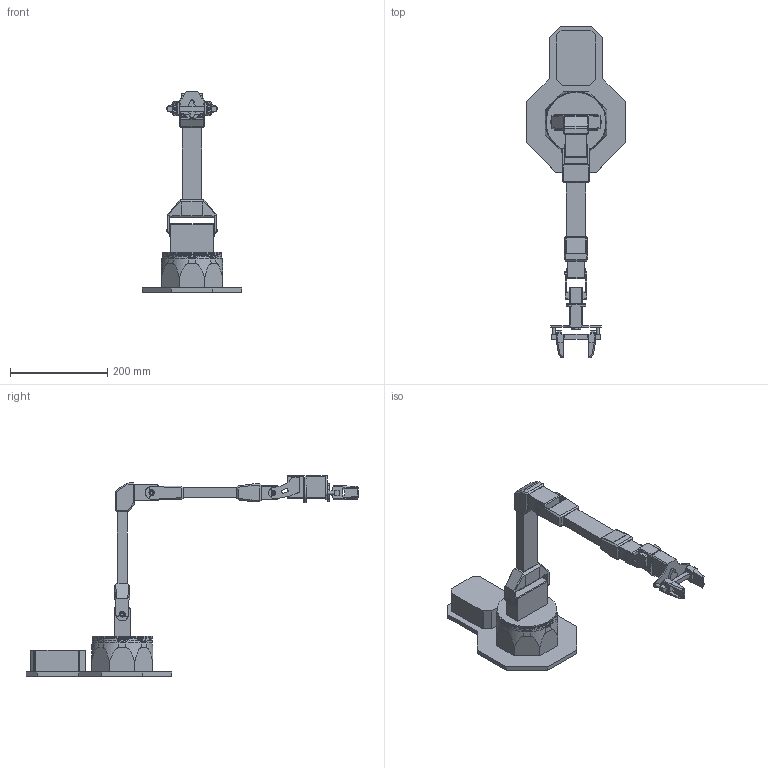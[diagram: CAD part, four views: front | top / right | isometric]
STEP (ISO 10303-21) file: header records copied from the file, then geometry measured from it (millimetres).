
FILE_DESCRIPTION(/* description */ (''),/* implementation_level */ '2;1');
FILE_NAME(/* name */ 'C:/Users/setup/Desktop/SOLIDS/7 - VXA-250-M/7 - VXA-250-M.step',/* time_stamp */ '2019-01-22T18:06:36-06:00',/* author */ ('wadecore'),/* organization */ (''),/* preprocessor_version */ 'ST-DEVELOPER v17.2',/* originating_system */ 'Autodesk Translation Framework v7.6.0.251',/* authorisation */ '');
FILE_SCHEMA (('AUTOMOTIVE_DESIGN { 1 0 10303 214 3 1 1 }'));
Length unit declared in the file: millimetre
Products named in the file (8): 7 - VXA-250-M; 540 Base; 540 Dual Shoulder; UA - 7 - VX-250; Fore - 7 - VX-250; 430 - Wrist; SRG; SRG Carriage With Finger
Assembly tree (8 placements, depth 2):
  7 - VXA-250-M
    540 Base
    540 Dual Shoulder
    UA - 7 - VX-250
    Fore - 7 - VX-250
    430 - Wrist
    SRG
    SRG Carriage With Finger  x2
Bounding box: 204 x 681.61 x 412 mm (x, y, z)
Volume: 2728764.5 mm3; surface area: 317899 mm2
Topology: 8 solids, 10 shells, 684 faces, 1779 edges, 1144 vertices
Faces by surface type: plane 478, cylinder 122, bspline 64, cone 20
Full cylindrical faces by diameter (mm): 3.8 x4, 4.5 x1, 4.9 x2, 5.5 x3, 6.3 x2, 8 x1, 10 x3, 19.5 x2, 26 x4, 40 x1, 83 x1, 122 x1, 123 x1
Entity records: 20958 total; most frequent: CARTESIAN_POINT 5551, ORIENTED_EDGE 3244, DIRECTION 2969, EDGE_CURVE 1622, LINE 1135, VECTOR 1135, VERTEX_POINT 1040, AXIS2_PLACEMENT_3D 917
